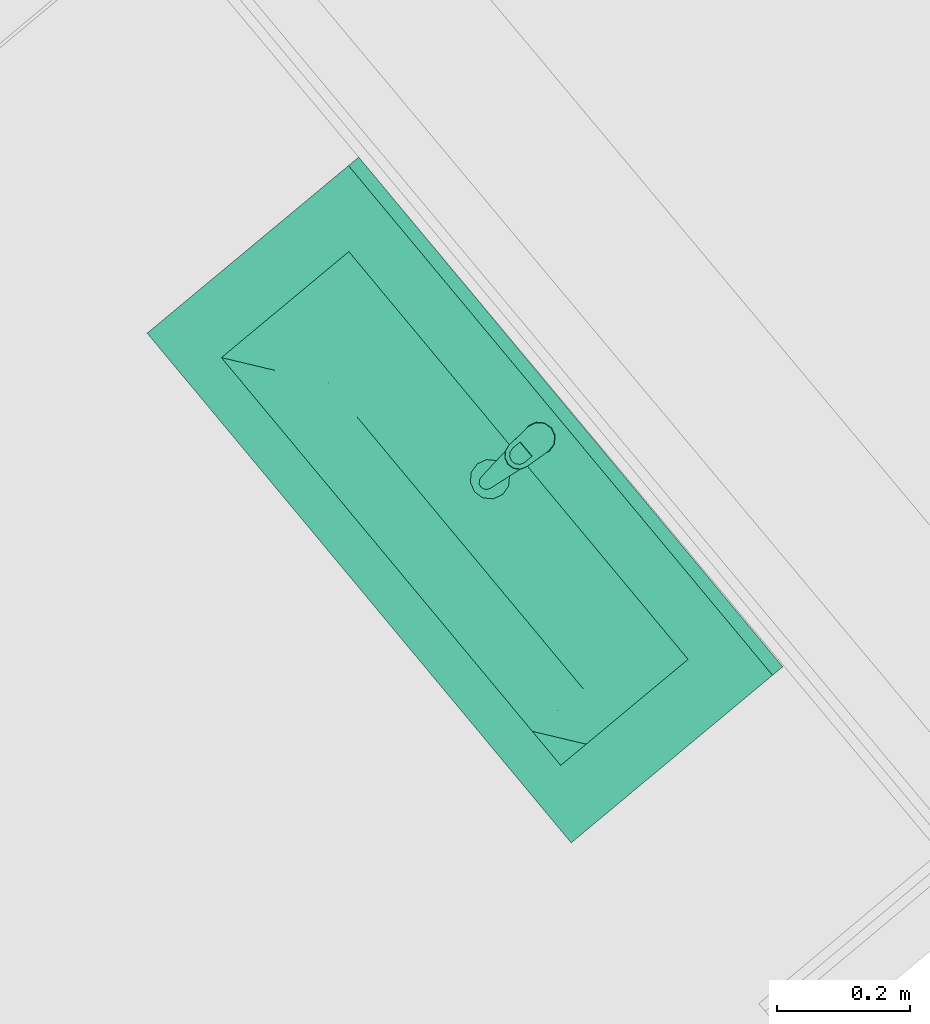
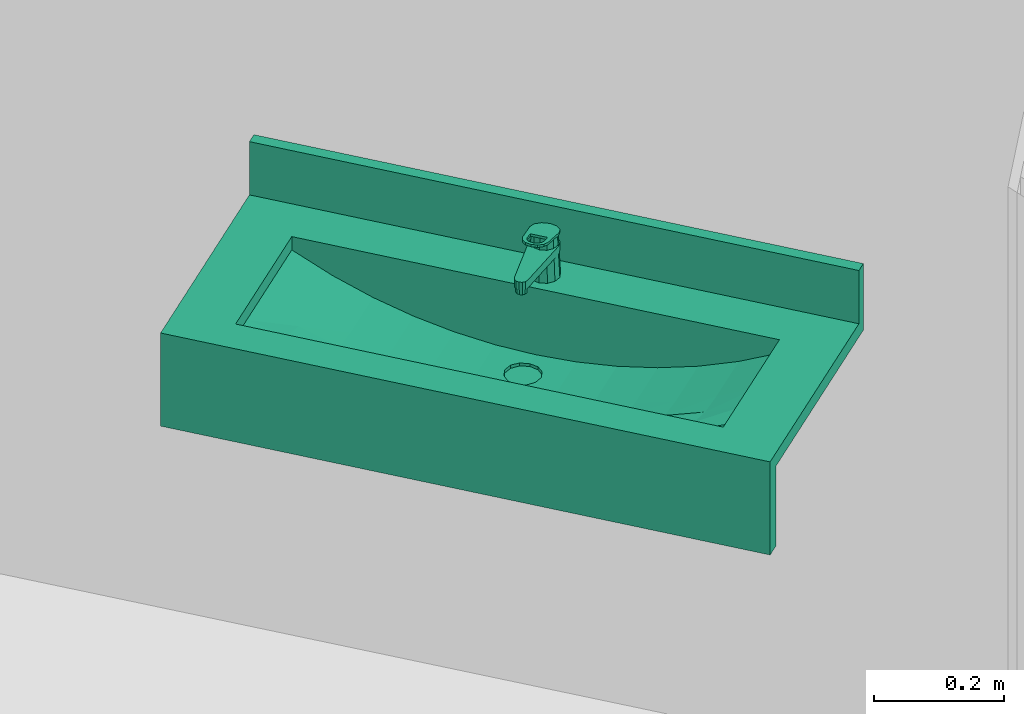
# One storey, part 44 of 50: 1 sanitary terminal.
"""IFC4 building model written with IfcOpenShell, lengths in metres."""

import ifcopenshell
import ifcopenshell.guid

model = None  # the IFC model being written
_history = None  # IfcOwnerHistory: only IFC2X3 demands one
_inside = {}  # id of a spatial element -> (the spatial element, [elements in it])
_under = {}  # id of a project, library or spatial element -> (it, [spatial elements below it])
_declared = {}  # id of a project -> (the project, [libraries it declares])
_typed = {}  # id of a type object -> (the type object, [elements of that type])
_made_of = {}  # id of a material, layer set ... -> (it, [elements and type objects made of it])


def new_model(schema):
    """Start an empty IFC model of exactly this schema.

    Asked for "IFC4X3", IfcOpenShell would pick the latest addendum, in which some entities
    have other attributes; the version numbers below select the first issue.
    IFC2X3 requires an IfcOwnerHistory on every rooted entity: one is made here for all.
    """
    global model, _history
    if schema == "IFC4X3":
        model = ifcopenshell.file(schema_version=(4, 3, 0, 0))
    else:
        model = ifcopenshell.file(schema=schema)
    _inside.clear()
    _under.clear()
    _declared.clear()
    _typed.clear()
    _made_of.clear()
    _history = None
    if model.schema == "IFC2X3":
        org = make("IfcOrganization", Name="unknown")
        user = make(
            "IfcPersonAndOrganization",
            ThePerson=make("IfcPerson", FamilyName="unknown"),
            TheOrganization=org,
        )
        app = make(
            "IfcApplication",
            ApplicationDeveloper=org,
            Version="unknown",
            ApplicationFullName="unknown",
            ApplicationIdentifier="unknown",
        )
        _history = make(
            "IfcOwnerHistory",
            OwningUser=user,
            OwningApplication=app,
            ChangeAction="ADDED",
            CreationDate=0,
        )
    return model


def make(cls, **values):
    """One entity of the class cls with the attributes given. An attribute that is None is left unset."""
    return model.create_entity(
        cls, **{name: value for name, value in values.items() if value is not None}
    )


def entity(cls, *values):
    """Any entity or typed value of the class cls, its attributes in the order of the schema. None: left unset."""
    e = model.create_entity(cls)
    for i, value in enumerate(values):
        if value is not None:
            e[i] = value
    return e


def rooted(cls, **values):
    """An entity with a GlobalId (a new one), such as an element, a storey or a relation."""
    return make(cls, GlobalId=ifcopenshell.guid.new(), OwnerHistory=_history, **values)


def si_unit(unit_type, name, prefix=None):
    """IfcSIUnit, for example si_unit("LENGTHUNIT", "METRE", prefix="MILLI")."""
    return make("IfcSIUnit", UnitType=unit_type, Prefix=prefix, Name=name)


def converted_unit(unit_type, name, factor, base, dimensions=None, offset=None):
    """IfcConversionBasedUnit, such as the inch: factor (a typed value) times the base unit."""
    return make(
        "IfcConversionBasedUnit"
        if offset is None
        else "IfcConversionBasedUnitWithOffset",
        ConversionOffset=offset,
        Dimensions=None
        if dimensions is None
        else entity("IfcDimensionalExponents", *dimensions),
        UnitType=unit_type,
        Name=name,
        ConversionFactor=make(
            "IfcMeasureWithUnit", ValueComponent=factor, UnitComponent=base
        ),
    )


def derived_unit(unit_type, elements):
    """IfcDerivedUnit: a product of units, each with its exponent."""
    return make(
        "IfcDerivedUnit",
        Elements=[
            make("IfcDerivedUnitElement", Unit=unit, Exponent=power)
            for unit, power in elements
        ],
        UnitType=unit_type,
    )


def assignment(units):
    """IfcUnitAssignment: the units of a project."""
    return None if units is None else make("IfcUnitAssignment", Units=units)


def point(xyz):
    """IfcCartesianPoint."""
    return None if xyz is None else make("IfcCartesianPoint", Coordinates=xyz)


def direction(xyz):
    """IfcDirection."""
    return None if xyz is None else make("IfcDirection", DirectionRatios=xyz)


def frame(location, z_axis=None, x_axis=None):
    """IfcAxis2Placement3D, a coordinate frame: its origin and axes. An axis left out is left unset."""
    return make(
        "IfcAxis2Placement3D",
        Location=point(location),
        Axis=direction(z_axis),
        RefDirection=direction(x_axis),
    )


def origin_with_axes():
    """The frame at (0, 0, 0) with the z axis (0, 0, 1) and the x axis (1, 0, 0) written out."""
    return frame((0.0, 0.0, 0.0), z_axis=(0.0, 0.0, 1.0), x_axis=(1.0, 0.0, 0.0))


def place(relative_to, where):
    """IfcLocalPlacement: puts the frame where relative to a parent placement (None: the world)."""
    return make(
        "IfcLocalPlacement", PlacementRelTo=relative_to, RelativePlacement=where
    )


def context(
    kind, dimensions, precision=None, world=None, true_north=None, identifier=None
):
    """IfcGeometricRepresentationContext, for example the 3D "Model" context."""
    return make(
        "IfcGeometricRepresentationContext",
        ContextIdentifier=identifier,
        ContextType=kind,
        CoordinateSpaceDimension=dimensions,
        Precision=precision,
        WorldCoordinateSystem=world,
        TrueNorth=true_north,
    )


def subcontext(parent, identifier, kind, view, scale=None):
    """IfcGeometricRepresentationSubContext, for example "Body" below "Model"."""
    return make(
        "IfcGeometricRepresentationSubContext",
        ContextIdentifier=identifier,
        ContextType=kind,
        ParentContext=parent,
        TargetScale=scale,
        TargetView=view,
    )


def project(units=None, contexts=None):
    """IfcProject with its units and contexts."""
    return rooted(
        "IfcProject",
        Name="project",
        RepresentationContexts=contexts,
        UnitsInContext=assignment(units),
    )


def spatial(cls, under=None, at=None, **own):
    """A site, building, storey or space (cls), placed at a placement, below another one or the project."""
    s = rooted(cls, ObjectPlacement=at, **own)
    if under is not None:
        _under.setdefault(under.id(), (under, []))[1].append(s)
    return s


def point_list(points):
    """IfcCartesianPointList2D or 3D."""
    cls = (
        "IfcCartesianPointList2D" if len(points[0]) == 2 else "IfcCartesianPointList3D"
    )
    return make(cls, CoordList=points)


def polygons(points, faces, closed=None, point_numbers=None):
    """IfcPolygonalFaceSet: a face is its outer loop, then its inner loops; points numbered from 1."""
    made = []
    for loops in faces:
        if len(loops) == 1:
            made.append(make("IfcIndexedPolygonalFace", CoordIndex=loops[0]))
        else:
            made.append(
                make(
                    "IfcIndexedPolygonalFaceWithVoids",
                    CoordIndex=loops[0],
                    InnerCoordIndices=loops[1:],
                )
            )
    return make(
        "IfcPolygonalFaceSet",
        Coordinates=point_list(points),
        Closed=closed,
        Faces=made,
        PnIndex=point_numbers,
    )


def shape(context_of_items, identifier, shape_type, items):
    """IfcShapeRepresentation: the items that make up one representation, for example the "Body"."""
    return make(
        "IfcShapeRepresentation",
        ContextOfItems=context_of_items,
        RepresentationIdentifier=identifier,
        RepresentationType=shape_type,
        Items=items,
    )


def source(mapping_origin, context_of_items, identifier, shape_type, items):
    """IfcRepresentationMap: a shape defined once, which mapped items show again and again."""
    return make(
        "IfcRepresentationMap",
        MappingOrigin=mapping_origin,
        MappedRepresentation=shape(context_of_items, identifier, shape_type, items),
    )


def transform(
    local_origin,
    x_axis=None,
    y_axis=None,
    z_axis=None,
    scale=None,
    scale2=None,
    scale3=None,
    uniform=True,
):
    """IfcCartesianTransformationOperator3D, or its non-uniform kind. x_axis, y_axis, z_axis: its Axis1, 2, 3."""
    if uniform:
        return make(
            "IfcCartesianTransformationOperator3D",
            Axis1=direction(x_axis),
            Axis2=direction(y_axis),
            LocalOrigin=point(local_origin),
            Scale=scale,
            Axis3=direction(z_axis),
        )
    return make(
        "IfcCartesianTransformationOperator3DnonUniform",
        Axis1=direction(x_axis),
        Axis2=direction(y_axis),
        LocalOrigin=point(local_origin),
        Scale=scale,
        Axis3=direction(z_axis),
        Scale2=scale2,
        Scale3=scale3,
    )


def mapped(mapping_source, mapping_target):
    """IfcMappedItem: shows the shape of a source again, moved by a transform."""
    return make(
        "IfcMappedItem", MappingSource=mapping_source, MappingTarget=mapping_target
    )


def made_of(thing, what):
    """Note that an element or type object is made of a material, layer set ...; save() writes the relation."""
    if what is not None:
        _made_of.setdefault(what.id(), (what, []))[1].append(thing)
    return thing


def type_object(cls, material=None, **own):
    """A type object (cls), such as IfcWallType, which elements share."""
    return made_of(rooted(cls, **own), material)


def element(
    cls,
    number,
    at=None,
    inside=None,
    cuts=None,
    type_object=None,
    material=None,
    context=None,
    identifier="Body",
    shape_type=None,
    held_by="IfcProductDefinitionShape",
    body=None,
    shapes=None,
    **own,
):
    """One element of the class cls, such as IfcWall. Its Tag is "e" and its number.

    at: its placement. inside: the storey or other place that contains it. cuts: it is an
    opening in that element (IfcRelVoidsElement). A single representation is given by context,
    identifier, shape_type and body (its items); several are given by shapes. held_by: the class
    of the entity that holds the representations. save() writes the other relations.
    """
    e = rooted(cls, Tag="e%d" % number, ObjectPlacement=at, **own)
    if body is not None:
        shapes = [shape(context, identifier, shape_type, body)]
    if shapes is not None:
        e.Representation = make(held_by, Representations=shapes)
    if inside is not None:
        _inside.setdefault(inside.id(), (inside, []))[1].append(e)
    if cuts is not None:
        rooted(
            "IfcRelVoidsElement", RelatingBuildingElement=cuts, RelatedOpeningElement=e
        )
    if type_object is not None:
        _typed.setdefault(type_object.id(), (type_object, []))[1].append(e)
    return made_of(e, material)


def aggregate(whole, parts):
    """IfcRelAggregates: a whole, such as a stair, and the parts it consists of."""
    return rooted("IfcRelAggregates", RelatingObject=whole, RelatedObjects=parts)


def save(model, path):
    """Write the relations noted so far, then the file.

    IfcRelAggregates (storeys below a building ...), IfcRelContainedInSpatialStructure (elements
    in a storey), IfcRelDefinesByType, IfcRelAssociatesMaterial and IfcRelDeclares: one each for
    every whole, place, type object, material and project.
    """
    for whole, parts in _under.values():
        aggregate(whole, parts)
    for where, things in _inside.values():
        rooted(
            "IfcRelContainedInSpatialStructure",
            RelatedElements=things,
            RelatingStructure=where,
        )
    for kind, things in _typed.values():
        rooted("IfcRelDefinesByType", RelatedObjects=things, RelatingType=kind)
    for what, things in _made_of.values():
        rooted("IfcRelAssociatesMaterial", RelatedObjects=things, RelatingMaterial=what)
    for by, libraries in _declared.values():
        rooted("IfcRelDeclares", RelatingContext=by, RelatedDefinitions=libraries)
    model.write(path)


model = new_model("IFC4")

# Units and contexts
model_context = context("Model", 3, precision=1e-05, world=origin_with_axes(), true_north=direction((0.0, 1.0)))
body_context = subcontext(model_context, "Body", "Model", "MODEL_VIEW")
ifc_project = project(units=[si_unit("LENGTHUNIT", "METRE"), si_unit("AREAUNIT", "SQUARE_METRE"), si_unit("VOLUMEUNIT", "CUBIC_METRE"), converted_unit("PLANEANGLEUNIT", "DEGREE", entity("IfcPlaneAngleMeasure", 0.0174532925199), si_unit("PLANEANGLEUNIT", "RADIAN"), dimensions=[0, 0, 0, 0, 0, 0, 0]), converted_unit("TIMEUNIT", "Year", entity("IfcTimeMeasure", 31556926.0), si_unit("TIMEUNIT", "SECOND"), dimensions=[0, 0, 1, 0, 0, 0, 0]), si_unit("MASSUNIT", "GRAM", prefix="KILO"), si_unit("THERMODYNAMICTEMPERATUREUNIT", "DEGREE_CELSIUS"), si_unit("LUMINOUSINTENSITYUNIT", "LUMEN"), si_unit("ENERGYUNIT", "JOULE", prefix="MEGA"), derived_unit("THERMALCONDUCTANCEUNIT", [(si_unit("POWERUNIT", "WATT"), 1), (si_unit("LENGTHUNIT", "METRE"), -1), (si_unit("THERMODYNAMICTEMPERATUREUNIT", "KELVIN"), -1)]), derived_unit("SPECIFICHEATCAPACITYUNIT", [(si_unit("ENERGYUNIT", "JOULE"), 1), (si_unit("MASSUNIT", "GRAM", prefix="KILO"), -1), (si_unit("THERMODYNAMICTEMPERATUREUNIT", "KELVIN"), -1)]), derived_unit("MASSDENSITYUNIT", [(si_unit("MASSUNIT", "GRAM", prefix="KILO"), 1), (si_unit("VOLUMEUNIT", "CUBIC_METRE"), -1)])], contexts=[model_context])

# Site, building, storey
site_placement = place(None, frame((-0.00153261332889, -0.00661245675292, 0.0), z_axis=(0.0, 0.0, 1.0), x_axis=(1.0, 0.0, 0.0)))
site = spatial("IfcSite", under=ifc_project, at=site_placement, Name="Site", CompositionType="ELEMENT")
building_placement = place(site_placement, origin_with_axes())
building = spatial("IfcBuilding", under=site, at=building_placement, Name="Building", CompositionType="ELEMENT")
storey_placement = place(building_placement, frame((0.0, 0.0, 2.74), z_axis=(0.0, 0.0, 1.0), x_axis=(1.0, 0.0, 0.0)))
storey = spatial("IfcBuildingStorey", under=building, at=storey_placement, Name="OG1", CompositionType="ELEMENT", Elevation=2.74)

# Sanitary terminal
sanitary_terminal_type = type_object("IfcSanitaryTerminalType", Name="Waschbecken mehrfach 26", PredefinedType="NOTDEFINED")
shared_shape = source(origin_with_axes(), body_context, "Body", "Tessellation", [
    polygons([(-0.5, 0.0, 0.875), (0.5, 0.0, 0.875), (0.5, -0.415119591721, 0.875), (-0.5, -0.415119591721, 0.875), (-0.4, -0.35255979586, 0.875), (0.4, -0.35255979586, 0.875), (0.4, -0.10255979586, 0.875), (-0.4, -0.10255979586, 0.875), (-0.5, 0.0, 0.9), (0.5, 0.0, 0.9), (0.5, -0.415119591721, 0.9), (-0.5, -0.415119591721, 0.9), (-0.4, -0.35255979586, 0.9), (0.4, -0.35255979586, 0.9), (0.4, -0.10255979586, 0.9), (-0.4, -0.10255979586, 0.9)], [[[1, 2, 3, 4], [5, 6, 7, 8]], [[1, 9, 10, 2]], [[2, 10, 11, 3]], [[3, 11, 12, 4]], [[4, 12, 9, 1]], [[13, 14, 6, 5]], [[14, 15, 7, 6]], [[15, 16, 8, 7]], [[16, 13, 5, 8]], [[11, 10, 9, 12], [13, 16, 15, 14]]], closed=True),
    polygons([(-0.5, -0.02, 0.9), (0.5, -0.02, 0.9), (0.5, -0.02, 1.0), (-0.5, -0.02, 1.0), (-0.5, 0.0, 0.9), (0.5, 0.0, 0.9), (0.5, 0.0, 1.0), (-0.5, 0.0, 1.0)], [[[1, 2, 3, 4]], [[1, 5, 6, 2]], [[2, 6, 7, 3]], [[4, 3, 7, 8]], [[5, 1, 4, 8]], [[6, 5, 8, 7]]], closed=True),
    polygons([(-0.5, -0.415119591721, 0.725), (0.5, -0.415119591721, 0.725), (0.5, -0.415119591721, 0.875), (-0.5, -0.415119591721, 0.875), (-0.5, -0.390119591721, 0.725), (0.5, -0.390119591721, 0.725), (0.5, -0.390119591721, 0.875), (-0.5, -0.390119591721, 0.875)], [[[1, 2, 3, 4]], [[1, 5, 6, 2]], [[2, 6, 7, 3]], [[4, 3, 7, 8]], [[5, 1, 4, 8]], [[6, 5, 8, 7]]], closed=True),
    polygons([(0.0, -0.18855104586, 0.775), (-0.015, -0.184531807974, 0.775589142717), (-0.0259807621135, -0.17355104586, 0.776020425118), (-0.03, -0.15855104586, 0.776178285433), (-0.0283946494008, -0.15255979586, 0.776115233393), (-0.0666666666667, -0.15255979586, 0.777618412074), (-0.0666666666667, -0.20255979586, 0.777618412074), (0.0, -0.20255979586, 0.775), (-0.015, -0.132570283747, 0.775589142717), (0.0, -0.12855104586, 0.775), (0.0, -0.10255979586, 0.775), (-0.0666666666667, -0.10255979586, 0.777618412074), (-0.0259807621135, -0.14355104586, 0.776020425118), (-0.133333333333, -0.15255979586, 0.785522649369), (-0.133333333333, -0.20255979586, 0.785522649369), (-0.0666666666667, -0.25255979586, 0.787498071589), (0.0666666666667, -0.15255979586, 0.777618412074), (0.0283946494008, -0.15255979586, 0.776115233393), (0.03, -0.15855104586, 0.776178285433), (0.0259807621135, -0.17355104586, 0.776020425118), (0.015, -0.184531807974, 0.775589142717), (0.0666666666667, -0.20255979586, 0.777618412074), (0.015, -0.132570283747, 0.775589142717), (0.0259807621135, -0.14355104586, 0.776020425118), (0.0666666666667, -0.10255979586, 0.777618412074), (0.2, -0.10255979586, 0.798864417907), (0.266666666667, -0.10255979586, 0.81791333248), (0.333333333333, -0.10255979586, 0.843086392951), (0.4, -0.10255979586, 0.875), (-0.4, -0.10255979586, 0.875), (-0.333333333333, -0.10255979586, 0.843086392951), (-0.266666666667, -0.10255979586, 0.81791333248), (-0.2, -0.10255979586, 0.798864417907), (-0.133333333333, -0.10255979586, 0.785522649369), (0.133333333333, -0.10255979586, 0.785522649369), (-0.2, -0.15255979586, 0.798864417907), (-0.2, -0.20255979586, 0.798864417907), (-0.133333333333, -0.25255979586, 0.794673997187), (0.0, -0.25255979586, 0.785118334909), (0.133333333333, -0.20255979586, 0.785522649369), (0.133333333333, -0.15255979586, 0.785522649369), (0.266666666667, -0.15255979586, 0.81791333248), (0.2, -0.15255979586, 0.798864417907), (0.333333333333, -0.15255979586, 0.843086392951), (0.4, -0.15255979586, 0.875), (-0.333333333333, -0.15255979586, 0.843086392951), (-0.4, -0.15255979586, 0.875), (-0.266666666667, -0.15255979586, 0.81791333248), (-0.266666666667, -0.20255979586, 0.81791333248), (-0.2, -0.25255979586, 0.80675915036), (-0.0666666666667, -0.30255979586, 0.828578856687), (-0.133333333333, -0.30255979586, 0.832507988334), (0.0666666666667, -0.25255979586, 0.787498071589), (0.2, -0.20255979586, 0.798864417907), (0.266666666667, -0.20255979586, 0.81791333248), (0.333333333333, -0.20255979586, 0.843086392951), (0.4, -0.20255979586, 0.875), (0.4, -0.25255979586, 0.875), (0.4, -0.30255979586, 0.875), (0.4, -0.35255979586, 0.875), (-0.4, -0.25255979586, 0.875), (-0.4, -0.20255979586, 0.875), (-0.4, -0.35255979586, 0.875), (-0.4, -0.30255979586, 0.875), (-0.333333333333, -0.20255979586, 0.843086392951), (-0.266666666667, -0.25255979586, 0.823952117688), (-0.2, -0.30255979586, 0.839076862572), (0.0, -0.30255979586, 0.827271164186), (0.133333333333, -0.25255979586, 0.794673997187), (0.2, -0.25255979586, 0.80675915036), (0.266666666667, -0.25255979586, 0.823952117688), (0.333333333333, -0.25255979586, 0.846554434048), (0.333333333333, -0.30255979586, 0.860271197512), (0.333333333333, -0.35255979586, 0.875), (-0.333333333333, -0.30255979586, 0.860271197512), (-0.333333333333, -0.25255979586, 0.846554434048), (-0.266666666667, -0.30255979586, 0.848316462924), (-0.0666666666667, -0.35255979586, 0.875), (-0.133333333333, -0.35255979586, 0.875), (-0.2, -0.35255979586, 0.875), (0.0666666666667, -0.30255979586, 0.828578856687), (-0.266666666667, -0.35255979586, 0.875), (-0.333333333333, -0.35255979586, 0.875), (0.266666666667, -0.35255979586, 0.875), (0.2, -0.35255979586, 0.875), (0.133333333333, -0.35255979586, 0.875), (0.0666666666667, -0.35255979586, 0.875), (0.0, -0.35255979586, 0.875), (0.133333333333, -0.30255979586, 0.832507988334), (0.2, -0.30255979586, 0.839076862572), (0.266666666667, -0.30255979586, 0.848316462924)], [[[1, 2, 3, 4, 5, 6, 7, 8]], [[9, 10, 11, 12, 6, 5, 13]], [[7, 6, 14, 15]], [[16, 8, 7]], [[17, 18, 19, 20, 21, 1, 8, 22]], [[10, 23, 24, 18, 17, 25, 11]], [[26, 27, 28, 29, 30, 31, 32, 33, 34, 12, 11, 25, 35]], [[6, 12, 34, 14]], [[15, 14, 36, 37]], [[38, 7, 15]], [[16, 39, 8]], [[38, 16, 7]], [[39, 22, 8]], [[40, 41, 17, 22]], [[41, 35, 25, 17]], [[42, 27, 26, 43]], [[44, 28, 27, 42]], [[45, 29, 28, 44]], [[46, 31, 30, 47]], [[48, 32, 31, 46]], [[36, 33, 32, 48]], [[14, 34, 33, 36]], [[43, 26, 35, 41]], [[37, 36, 48, 49]], [[50, 15, 37]], [[50, 38, 15]], [[51, 39, 16]], [[52, 16, 38]], [[39, 53, 22]], [[54, 43, 41, 40]], [[53, 40, 22]], [[55, 42, 43, 54]], [[56, 44, 42, 55]], [[57, 58, 59, 60, 29, 45]], [[57, 45, 44, 56]], [[61, 62, 47, 30, 63, 64]], [[65, 46, 47, 62]], [[49, 48, 46, 65]], [[66, 37, 49]], [[66, 50, 37]], [[67, 38, 50]], [[51, 68, 39]], [[52, 51, 16]], [[67, 52, 38]], [[68, 53, 39]], [[69, 54, 40]], [[53, 69, 40]], [[70, 55, 54]], [[71, 56, 55]], [[72, 58, 57]], [[73, 59, 58]], [[74, 60, 59]], [[72, 57, 56]], [[61, 65, 62]], [[63, 75, 64]], [[64, 76, 61]], [[76, 49, 65]], [[76, 66, 49]], [[77, 50, 66]], [[77, 67, 50]], [[78, 68, 51]], [[79, 51, 52]], [[80, 52, 67]], [[68, 81, 53]], [[69, 70, 54]], [[81, 69, 53]], [[70, 71, 55]], [[71, 72, 56]], [[73, 58, 72]], [[74, 59, 73]], [[80, 82, 83, 63, 60, 74, 84, 85, 86, 87, 88, 78, 79]], [[61, 76, 65]], [[63, 83, 75]], [[64, 75, 76]], [[75, 66, 76]], [[75, 77, 66]], [[82, 67, 77]], [[78, 88, 68]], [[79, 78, 51]], [[80, 79, 52]], [[82, 80, 67]], [[88, 81, 68]], [[89, 70, 69]], [[81, 89, 69]], [[90, 71, 70]], [[91, 72, 71]], [[91, 73, 72]], [[84, 74, 73]], [[83, 82, 77]], [[85, 84, 91]], [[86, 85, 90]], [[87, 86, 89]], [[88, 87, 81]], [[83, 77, 75]], [[89, 90, 70]], [[87, 89, 81]], [[90, 91, 71]], [[84, 73, 91]], [[85, 91, 90]], [[86, 90, 89]]], closed=False),
    polygons([(0.03, -0.15855104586, 0.776178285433), (0.0259807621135, -0.17355104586, 0.776020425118), (0.0259807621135, -0.17355104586, 0.77), (0.03, -0.15855104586, 0.77), (0.015, -0.184531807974, 0.775589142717), (0.015, -0.184531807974, 0.77), (0.0, -0.12855104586, 0.77), (0.015, -0.132570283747, 0.77), (0.0259807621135, -0.14355104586, 0.77), (0.0, -0.18855104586, 0.77), (-0.015, -0.184531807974, 0.77), (-0.0259807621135, -0.17355104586, 0.77), (-0.03, -0.15855104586, 0.77), (-0.0259807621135, -0.14355104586, 0.77), (-0.015, -0.132570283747, 0.77), (0.0259807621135, -0.14355104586, 0.776020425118), (0.0, -0.18855104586, 0.775), (0.0, -0.12855104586, 0.775), (0.015, -0.132570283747, 0.775589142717), (-0.015, -0.184531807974, 0.775589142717), (-0.0259807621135, -0.17355104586, 0.776020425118), (-0.03, -0.15855104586, 0.776178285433), (-0.0259807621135, -0.14355104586, 0.776020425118), (-0.015, -0.132570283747, 0.775589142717)], [[[1, 2, 3, 4]], [[2, 5, 6, 3]], [[7, 8, 9, 4, 3, 6, 10, 11, 12, 13, 14, 15]], [[16, 1, 4, 9]], [[5, 17, 10, 6]], [[18, 19, 8, 7]], [[19, 16, 9, 8]], [[17, 20, 11, 10]], [[20, 21, 12, 11]], [[21, 22, 13, 12]], [[22, 23, 14, 13]], [[23, 24, 15, 14]], [[24, 18, 7, 15]]], closed=False),
    polygons([(0.0125, -0.0409091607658, 0.9), (0.0, -0.0375597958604, 0.9), (0.0, -0.0413578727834, 0.975961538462), (0.0105873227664, -0.0442220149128, 0.976507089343), (0.0216506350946, -0.0500597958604, 0.9), (0.025, -0.0625597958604, 0.9), (0.0216506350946, -0.0750597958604, 0.9), (0.0125, -0.084210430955, 0.9), (0.0, -0.0875597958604, 0.9), (-0.0125, -0.084210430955, 0.9), (-0.0216506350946, -0.0750597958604, 0.9), (-0.025, -0.0625597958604, 0.9), (-0.0216506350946, -0.0500597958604, 0.9), (-0.0125, -0.0409091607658, 0.9), (-0.0105873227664, -0.0442220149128, 0.976507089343), (-0.0182735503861, -0.0520095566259, 0.977990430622), (-0.021, -0.0625597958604, 0.98), (-0.0181003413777, -0.0730100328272, 0.981990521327), (-0.0104141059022, -0.0805975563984, 0.983435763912), (0.0, -0.0833616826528, 0.983962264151), (0.0104141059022, -0.0805975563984, 0.983435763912), (0.0181003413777, -0.0730100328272, 0.981990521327), (0.021, -0.0625597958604, 0.98), (0.0182735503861, -0.0520095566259, 0.977990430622)], [[[1, 2, 3, 4]], [[1, 5, 6, 7, 8, 9, 10, 11, 12, 13, 14, 2]], [[2, 14, 15, 3]], [[4, 3, 15, 16, 17, 18, 19, 20, 21, 22, 23, 24]], [[5, 1, 4, 24]], [[6, 5, 24, 23]], [[7, 6, 23, 22]], [[8, 7, 22, 21]], [[9, 8, 21, 20]], [[10, 9, 20, 19]], [[11, 10, 19, 18]], [[12, 11, 18, 17]], [[13, 12, 17, 16]], [[14, 13, 16, 15]]], closed=True),
    polygons([(0.009, -0.16555979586, 0.935), (0.00779422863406, -0.16105979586, 0.935), (0.00779422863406, -0.16105979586, 0.945), (0.009, -0.16555979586, 0.945), (0.00779422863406, -0.17005979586, 0.935), (0.0045, -0.173354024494, 0.935), (0.0, -0.17455979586, 0.935), (-0.0045, -0.173354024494, 0.935), (-0.00779422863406, -0.17005979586, 0.935), (-0.009, -0.16555979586, 0.935), (-0.00779422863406, -0.16105979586, 0.935), (-0.0045, -0.157765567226, 0.935), (0.0, -0.15655979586, 0.935), (0.0045, -0.157765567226, 0.935), (0.0045, -0.157765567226, 0.945), (0.0, -0.15655979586, 0.945), (-0.0045, -0.157765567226, 0.945), (-0.00779422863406, -0.16105979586, 0.945), (-0.009, -0.16555979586, 0.945), (-0.00779422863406, -0.17005979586, 0.945), (-0.0045, -0.173354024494, 0.945), (0.0, -0.17455979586, 0.945), (0.0045, -0.173354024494, 0.945), (0.00779422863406, -0.17005979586, 0.945)], [[[1, 2, 3, 4]], [[1, 5, 6, 7, 8, 9, 10, 11, 12, 13, 14, 2]], [[2, 14, 15, 3]], [[4, 3, 15, 16, 17, 18, 19, 20, 21, 22, 23, 24]], [[5, 1, 4, 24]], [[6, 5, 24, 23]], [[7, 6, 23, 22]], [[8, 7, 22, 21]], [[9, 8, 21, 20]], [[10, 9, 20, 19]], [[11, 10, 19, 18]], [[12, 11, 18, 17]], [[13, 12, 17, 16]], [[14, 13, 16, 15]]], closed=True),
    polygons([(-0.0128717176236, -0.0423034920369, 0.96), (-0.021727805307, -0.0523665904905, 0.96), (-0.0238054, -0.0656096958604, 0.96), (-0.010911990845, -0.166948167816, 0.96), (-0.00902887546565, -0.17184299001, 0.96), (-0.00509332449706, -0.175309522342, 0.96), (3.62679860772e-08, -0.176559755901, 0.96), (0.00509338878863, -0.175309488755, 0.96), (0.00902891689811, -0.171842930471, 0.96), (0.010912, -0.16694809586, 0.96), (0.0238053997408, -0.0656096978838, 0.96), (0.0217278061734, -0.0523665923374, 0.96), (0.0128717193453, -0.042303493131, 0.96), (1.01998896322e-09, -0.0385598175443, 0.96), (0.011, -0.0435072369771, 0.96), (0.0190525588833, -0.0515597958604, 0.96), (0.022, -0.0625597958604, 0.96), (0.0190525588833, -0.0735597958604, 0.96), (0.011, -0.0816123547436, 0.96), (0.0, -0.0845597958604, 0.96), (-0.011, -0.0816123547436, 0.96), (-0.0190525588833, -0.0735597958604, 0.96), (-0.022, -0.0625597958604, 0.96), (-0.0190525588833, -0.0515597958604, 0.96), (-0.011, -0.0435072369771, 0.96), (0.0, -0.0405597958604, 0.96), (-0.021727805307, -0.0523665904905, 0.945), (-0.0128717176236, -0.0423034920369, 0.945), (-0.0238054, -0.0656096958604, 0.945), (-0.010911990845, -0.166948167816, 0.945), (-0.00902887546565, -0.17184299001, 0.945), (-0.00509332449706, -0.175309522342, 0.945), (3.62679860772e-08, -0.176559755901, 0.945), (0.00509338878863, -0.175309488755, 0.945), (0.00902891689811, -0.171842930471, 0.945), (0.010912, -0.16694809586, 0.945), (0.0238053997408, -0.0656096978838, 0.945), (0.0217278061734, -0.0523665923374, 0.945), (0.0128717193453, -0.042303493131, 0.945), (1.01998896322e-09, -0.0385598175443, 0.945), (0.011375, -0.0428577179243, 0.945), (0.0197020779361, -0.0511847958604, 0.945), (0.02275, -0.0625597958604, 0.945), (0.0197020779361, -0.0739347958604, 0.945), (0.011375, -0.0822618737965, 0.945), (0.0, -0.0853097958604, 0.945), (-0.011375, -0.0822618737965, 0.945), (-0.0197020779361, -0.0739347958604, 0.945), (-0.02275, -0.0625597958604, 0.945), (-0.0197020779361, -0.0511847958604, 0.945), (-0.011375, -0.0428577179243, 0.945), (0.0, -0.0398097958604, 0.945)], [[[1, 2, 3, 4, 5, 6, 7, 8, 9, 10, 11, 12, 13, 14], [15, 16, 17, 18, 19, 20, 21, 22, 23, 24, 25, 26]], [[27, 2, 1, 28]], [[29, 3, 2, 27]], [[30, 4, 3, 29]], [[31, 5, 4, 30]], [[32, 6, 5, 31]], [[33, 7, 6, 32]], [[34, 8, 7, 33]], [[35, 9, 8, 34]], [[36, 10, 9, 35]], [[37, 11, 10, 36]], [[38, 12, 11, 37]], [[39, 13, 12, 38]], [[40, 14, 13, 39]], [[28, 1, 14, 40]], [[41, 42, 16, 15]], [[42, 43, 17, 16]], [[43, 44, 18, 17]], [[44, 45, 19, 18]], [[45, 46, 20, 19]], [[21, 20, 46, 47]], [[22, 21, 47, 48]], [[23, 22, 48, 49]], [[24, 23, 49, 50]], [[25, 24, 50, 51]], [[51, 52, 26, 25]], [[52, 41, 15, 26]], [[33, 32, 31, 30, 29, 27, 28, 40, 39, 38, 37, 36, 35, 34], [45, 44, 43, 42, 41, 52, 51, 50, 49, 48, 47, 46]]], closed=True),
    polygons([(0.023893, -0.0642523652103, 0.980322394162), (0.0212964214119, -0.0517850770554, 0.977947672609), (0.0212964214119, -0.0510366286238, 0.981877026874), (0.023893, -0.0635039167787, 0.984251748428), (0.0209459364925, -0.104396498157, 0.987968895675), (0.0176631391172, -0.114074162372, 0.989812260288), (0.0100614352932, -0.121023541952, 0.991135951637), (-4.42652908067e-07, -0.123545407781, 0.991616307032), (-0.0100622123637, -0.121023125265, 0.991135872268), (-0.0176636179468, -0.114073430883, 0.989812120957), (-0.020946, -0.104395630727, 0.987968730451), (-0.023893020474, -0.0642520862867, 0.980322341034), (-0.0212962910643, -0.0517848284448, 0.977947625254), (-0.0124716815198, -0.0424685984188, 0.976173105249), (1.42337785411e-07, -0.0390278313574, 0.975517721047), (0.0124719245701, -0.0424687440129, 0.976173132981), (0.014, -0.0881005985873, 0.984864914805), (-0.014, -0.0881005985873, 0.984864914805), (-0.014, -0.102916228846, 0.987686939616), (-0.012124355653, -0.109792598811, 0.988996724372), (-0.007, -0.114826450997, 0.989955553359), (0.0, -0.116668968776, 0.990306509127), (0.007, -0.114826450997, 0.989955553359), (0.012124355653, -0.109792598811, 0.988996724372), (0.014, -0.102916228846, 0.987686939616), (0.0124719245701, -0.0417202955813, 0.980102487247), (1.42337785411e-07, -0.0382793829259, 0.979447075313), (-0.0124716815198, -0.0417201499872, 0.980102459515), (-0.0212962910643, -0.0510363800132, 0.98187697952), (-0.023893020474, -0.0635036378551, 0.984251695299), (-0.020946, -0.103647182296, 0.991898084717), (-0.0176636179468, -0.113324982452, 0.993741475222), (-0.0100622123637, -0.120274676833, 0.995065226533), (-4.42652908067e-07, -0.122796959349, 0.995545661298), (0.0100614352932, -0.120275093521, 0.995065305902), (0.0176631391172, -0.11332571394, 0.993741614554), (0.0209459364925, -0.103648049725, 0.991898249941), (0.014, -0.0873521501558, 0.988794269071), (0.014, -0.102167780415, 0.991616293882), (0.012124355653, -0.10904415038, 0.992926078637), (0.007, -0.114078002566, 0.993884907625), (0.0, -0.115920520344, 0.994235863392), (-0.007, -0.114078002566, 0.993884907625), (-0.012124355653, -0.10904415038, 0.992926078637), (-0.014, -0.102167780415, 0.991616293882), (-0.014, -0.0873521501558, 0.988794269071)], [[[1, 2, 3, 4]], [[1, 5, 6, 7, 8, 9, 10, 11, 12, 13, 14, 15, 16, 2], [17, 18, 19, 20, 21, 22, 23, 24, 25]], [[2, 16, 26, 3]], [[4, 3, 26, 27, 28, 29, 30, 31, 32, 33, 34, 35, 36, 37], [38, 39, 40, 41, 42, 43, 44, 45, 46]], [[5, 1, 4, 37]], [[6, 5, 37, 36]], [[7, 6, 36, 35]], [[8, 7, 35, 34]], [[9, 8, 34, 33]], [[10, 9, 33, 32]], [[11, 10, 32, 31]], [[12, 11, 31, 30]], [[13, 12, 30, 29]], [[14, 13, 29, 28]], [[15, 14, 28, 27]], [[16, 15, 27, 26]], [[18, 17, 38, 46]], [[19, 18, 46, 45]], [[20, 19, 45, 44]], [[21, 20, 44, 43]], [[22, 21, 43, 42]], [[23, 22, 42, 41]], [[24, 23, 41, 40]], [[25, 24, 40, 39]], [[17, 25, 39, 38]]], closed=True),
])
sanitary_terminal_placement = place(storey_placement, frame((-3.43926189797, 21.58416467, 0.145), z_axis=(0.0, 0.0, 1.0), x_axis=(0.639604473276, -0.768704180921, 0.0)))
element("IfcSanitaryTerminal", 1, at=sanitary_terminal_placement, inside=storey, type_object=sanitary_terminal_type, Name="Objekt-0009", PredefinedType="NOTDEFINED", context=body_context, shape_type="MappedRepresentation", body=[
    mapped(shared_shape, transform((0.0, 0.0, 0.0))),
])

save(model, "model.ifc")
